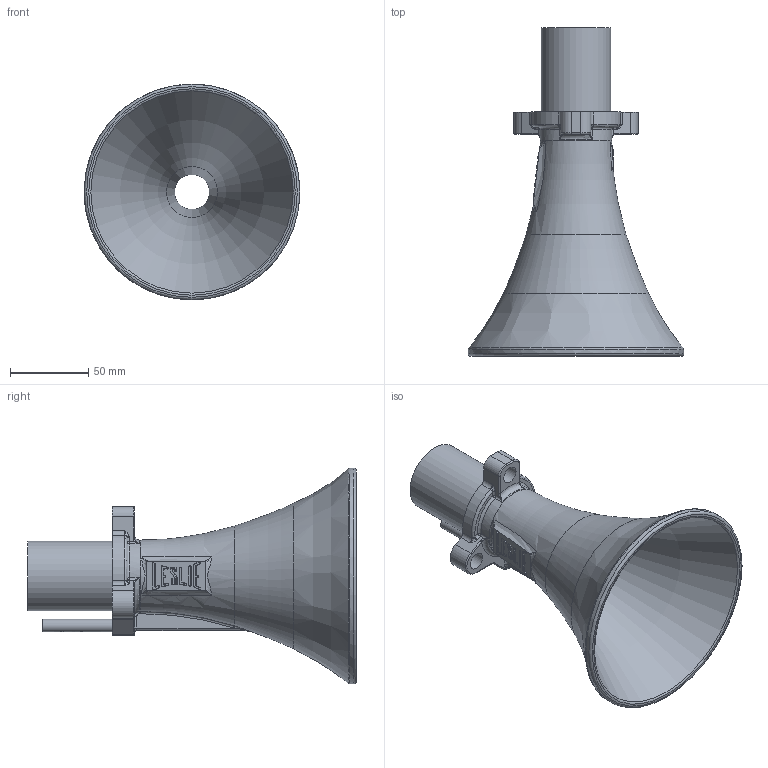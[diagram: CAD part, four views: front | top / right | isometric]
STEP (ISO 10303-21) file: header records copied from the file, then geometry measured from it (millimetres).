
FILE_DESCRIPTION(/* description */ (''),/* implementation_level */ '2;1');
FILE_NAME(/* name */ 'E:/hidden/Engineering Projects/Leslie Controls SuperTyfon/CAD/Components/27585 #55 Horn, Complete.step',/* time_stamp */ '2022-08-18T19:38:51+10:00',/* author */ (''),/* organization */ (''),/* preprocessor_version */ 'ST-DEVELOPER v19',/* originating_system */ 'Autodesk Translation Framework v11.7.0.108',/* authorisation */ '');
FILE_SCHEMA (('AUTOMOTIVE_DESIGN { 1 0 10303 214 3 1 1 }'));
Length unit declared in the file: inch
Products named in the file (3): #13853; #13854; #13855
Assembly tree (2 placements, depth 2):
  #13853
    #13854
    #13855
Bounding box: 138.11 x 210.34 x 138.11 mm (x, y, z)
Volume: 232752.8 mm3; surface area: 99227.4 mm2
Topology: 2 solids, 2 shells, 341 faces, 910 edges, 568 vertices
Faces by surface type: plane 107, bspline 96, cone 56, cylinder 52, torus 26, sphere 4
Full cylindrical faces by diameter (mm): 1.984 x1, 6.35 x1, 7.938 x1, 7.987 x1, 11.112 x3, 44.45 x1, 138.112 x1
Entity records: 13867 total; most frequent: CARTESIAN_POINT 5894, ORIENTED_EDGE 1784, DIRECTION 1420, EDGE_CURVE 892, VERTEX_POINT 568, AXIS2_PLACEMENT_3D 518, LINE 384, VECTOR 384
